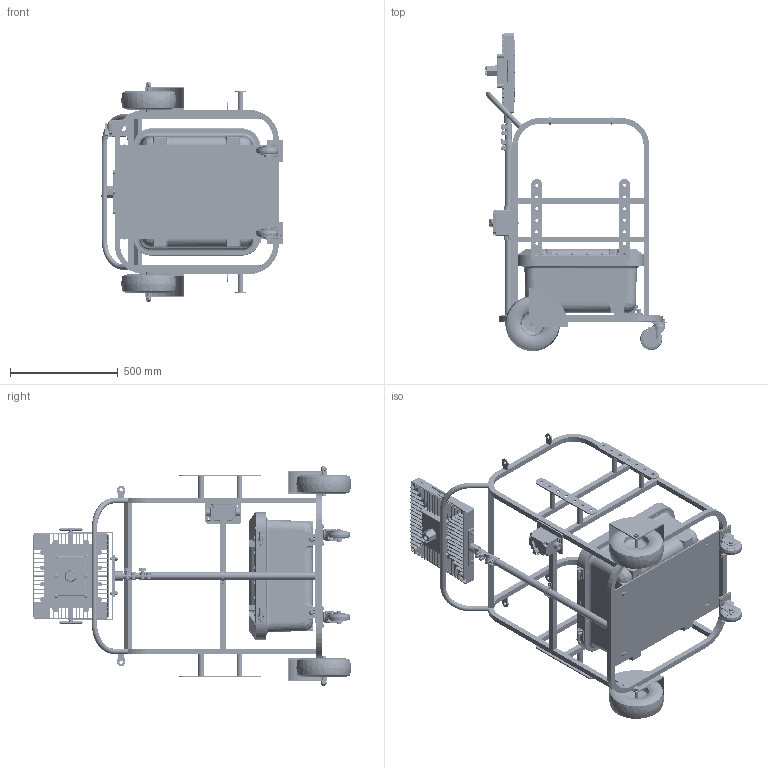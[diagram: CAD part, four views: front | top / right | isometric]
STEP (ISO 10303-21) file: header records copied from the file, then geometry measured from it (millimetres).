
FILE_DESCRIPTION (( 'STEP AP214' ), '1' );
FILE_NAME ('EPL-RPS-140A-APM-150LED-RT-M2.STEP', '2021-07-27T14:11:56', ( '' ), ( '' ), 'SwSTEP 2.0', 'SolidWorks 2020', '' );
FILE_SCHEMA (( 'AUTOMOTIVE_DESIGN' ));
Length unit declared in the file: inch
Products named in the file (80): Eyelet EPL-TX-1500-480-120.240-300; hex bolt_ai_HBOLT 0.2500-20x1.625x0.75-N; 0720361B; Gasket_Stage 3; Knob; 18094; 18095; Side Pipe EPL-TX-1500-480-120.240-300; Head; hex nut_ai_HNUT 0.2500-20-D-N; TPM-12 Tubing_Stage 1; EPL-HB-150LED-RT Base; ANSI B18.6.3 - 4-40 x 3_8; flat washer type b narrow_ai_Narrow FW 0.25; 14729-gasket-18; Handle EPL-TX-1500-480-120.240-300_Default<As Machined>; EPL-SW1; TPM-12 Tubing_Stage 2; 8789T42_Mount Plate; 1x1 Bottom Frame EPL-TX-1500-480-120.240-300_Default<As Machined>; TPM-12_Collapsed; 8789T42_Swivel; Gasket_Stage 2; 4in Swivel with Lock_Side; Wheel Cover EPL-TX-1500-480-120.240-300; ASME B18.21.1 - 1_4; Wheel Cover Top EPL-TX-1500-480-120.240-300; 17613; Side Bracket EPL-TX-1500-480-120.240-300; 18243; hex bolt_ai_HBOLT 0.2500-20x1.25x0.75-N; 18238AAAB; EPL-TX Cart_Locking Swivel Casters; Pole Bracket; 18095_2; 1x1 Side Frame EPL-TX-1500-480-120.240-300_Default<As Machined>; 0106275B_2; hex nut_ai_HNUT 0.3750-24-D-N; socket head cap screw_ai_HX-SHCS 0.25-20x1x1-N; hex nut_ai_HNUT 0.5000-13-D-N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
Assembly tree (198 placements, depth 5):
  EPL-RPS-140A-APM-150LED-RT-M2
    EPL-TX Cart_Locking Swivel Casters
      Frame EPL-TX-1500-480-120.240-300_Swivel Lock
        1x1 Bottom Frame EPL-TX-1500-480-120.240-300_Default<As Machined>
        1x1 Side Frame EPL-TX-1500-480-120.240-300_Default<As Machined>  x2
        1x1 Back Beam EPL-TX-1500-480-120.240-300_Default<As Machined>  x2
        1x1 Side Beam EPL-TX-1500-480-120.240-300_Default<As Machined>  x4
        Side Pipe EPL-TX-1500-480-120.240-300  x8
        Side Bracket EPL-TX-1500-480-120.240-300  x4
        Eyelet EPL-TX-1500-480-120.240-300  x4
        Handle EPL-TX-1500-480-120.240-300_Default<As Machined>
        Foot EPL-TX-1500-480-120.240-300_Swivel Lock  x2
        Wheel Cover EPL-TX-1500-480-120.240-300
          Wheel Cover Side EPL-TX-1500-480-120.240-300  x2
          Wheel Cover Top EPL-TX-1500-480-120.240-300
        Wheel Cover EPL-TX-1500-480-120.240-300
          Wheel Cover Side EPL-TX-1500-480-120.240-300  x2
          Wheel Cover Top EPL-TX-1500-480-120.240-300
      10 inch tire  x2
      EPL-TX Cart Bottom Plate
      flat washer type b narrow_ai_Narrow FW 0.25  x8
      hex nut_ai_HNUT 0.2500-20-D-N  x8
      hex bolt_ai_HBOLT 0.2500-20x0.75x0.75-N  x8
      hex bolt_ai_HBOLT 0.6250-18x5x1.5-N  x2
      hex nut_ai_HNUT 0.6250-18-D-N  x2
      4in Swivel with Lock_Side
        8789T42_2
        8789T42_Swivel
        8789T42_Mount Plate
      4in Swivel with Lock_Side
        8789T42_2
        8789T42_Swivel
        8789T42_Mount Plate
    EPL-AEB-18.18.8
      17613
      17611
      Hinge 11B
        18094
          18094_2
          18094
        18093
      Hinge 11T
        18095
          18095
          18095_2
        18093
        SAE J487a - 1_8 x 3_4    Extended Prong Square Cut Type
      0106275B_2  x4
      18147AABB  x8
      16972AAAB  x8
      14729-gasket-18
      0720361B  x24
      KIT-346
        18238AAAB
        18243
        ANSI B18.6.3 - 1_4-20 UNC x 1  x2
        ANSI B18.6.3 - 4-40 x 3_8
        ASME B18.21.1 - 1_4  x2
    TPM-12_Collapsed
      TPM-12 Tubing_Stage 1
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Bounding box: 843.6 x 1474.88 x 1016 mm (x, y, z)
Volume: 56364897.2 mm3; surface area: 8168413.7 mm2
Topology: 200 solids, 202 shells, 8771 faces, 22080 edges, 13619 vertices
Faces by surface type: plane 4293, cylinder 2431, cone 1137, bspline 542, torus 364, sphere 4
Entity records: 207458 total; most frequent: CARTESIAN_POINT 63729, ORIENTED_EDGE 26452, DIRECTION 24773, EDGE_CURVE 13226, AXIS2_PLACEMENT_3D 8900, VERTEX_POINT 8205, LINE 6973, VECTOR 6973
